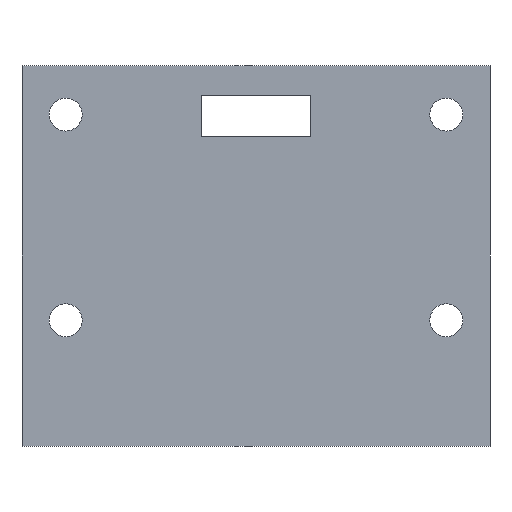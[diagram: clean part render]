
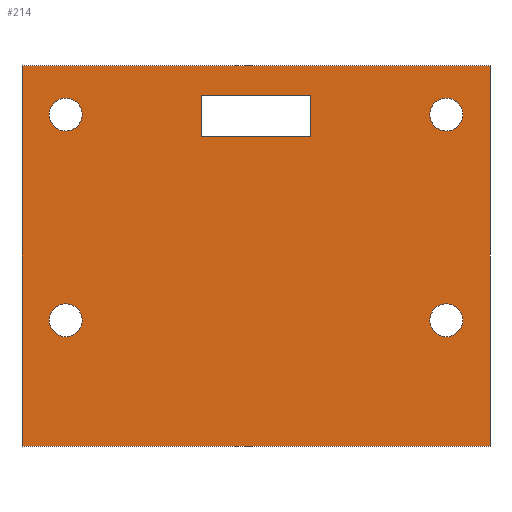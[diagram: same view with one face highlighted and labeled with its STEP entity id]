
A CAD part, front view. The second image highlights one B-rep face of the part: STEP entity #214.
In plain terms, the highlighted planar face has unit normal (0, -1, 0).
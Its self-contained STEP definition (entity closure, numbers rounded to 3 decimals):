
#24 = VERTEX_POINT('',#25);
#25 = CARTESIAN_POINT('',(0.,-4.,0.));
#31 = EDGE_CURVE('',#24,#32,#34,.T.);
#32 = VERTEX_POINT('',#33);
#33 = CARTESIAN_POINT('',(45.5,-4.,0.));
#34 = LINE('',#35,#36);
#35 = CARTESIAN_POINT('',(0.,-4.,0.));
#36 = VECTOR('',#37,1.);
#37 = DIRECTION('',(1.,0.,0.));
#64 = VERTEX_POINT('',#65);
#65 = CARTESIAN_POINT('',(0.,-4.,37.));
#71 = EDGE_CURVE('',#64,#24,#72,.T.);
#72 = LINE('',#73,#74);
#73 = CARTESIAN_POINT('',(0.,-4.,37.));
#74 = VECTOR('',#75,1.);
#75 = DIRECTION('',(0.,0.,-1.));
#93 = EDGE_CURVE('',#32,#94,#96,.T.);
#94 = VERTEX_POINT('',#95);
#95 = CARTESIAN_POINT('',(45.5,-4.,37.));
#96 = LINE('',#97,#98);
#97 = CARTESIAN_POINT('',(45.5,-4.,0.));
#98 = VECTOR('',#99,1.);
#99 = DIRECTION('',(0.,0.,1.));
#214 = ADVANCED_FACE('',(#215,#226,#237,#248,#259,#293),#304,.F.);
#215 = FACE_BOUND('',#216,.F.);
#216 = EDGE_LOOP('',(#217,#218,#219,#225));
#217 = ORIENTED_EDGE('',*,*,#31,.F.);
#218 = ORIENTED_EDGE('',*,*,#71,.F.);
#219 = ORIENTED_EDGE('',*,*,#220,.F.);
#220 = EDGE_CURVE('',#94,#64,#221,.T.);
#221 = LINE('',#222,#223);
#222 = CARTESIAN_POINT('',(45.5,-4.,37.));
#223 = VECTOR('',#224,1.);
#224 = DIRECTION('',(-1.,0.,0.));
#225 = ORIENTED_EDGE('',*,*,#93,.F.);
#226 = FACE_BOUND('',#227,.F.);
#227 = EDGE_LOOP('',(#228));
#228 = ORIENTED_EDGE('',*,*,#229,.T.);
#229 = EDGE_CURVE('',#230,#230,#232,.T.);
#230 = VERTEX_POINT('',#231);
#231 = CARTESIAN_POINT('',(5.85,-4.,12.25));
#232 = CIRCLE('',#233,1.6);
#233 = AXIS2_PLACEMENT_3D('',#234,#235,#236);
#234 = CARTESIAN_POINT('',(4.25,-4.,12.25));
#235 = DIRECTION('',(0.,-1.,0.));
#236 = DIRECTION('',(1.,0.,0.));
#237 = FACE_BOUND('',#238,.F.);
#238 = EDGE_LOOP('',(#239));
#239 = ORIENTED_EDGE('',*,*,#240,.T.);
#240 = EDGE_CURVE('',#241,#241,#243,.T.);
#241 = VERTEX_POINT('',#242);
#242 = CARTESIAN_POINT('',(5.85,-4.,32.25));
#243 = CIRCLE('',#244,1.6);
#244 = AXIS2_PLACEMENT_3D('',#245,#246,#247);
#245 = CARTESIAN_POINT('',(4.25,-4.,32.25));
#246 = DIRECTION('',(0.,-1.,0.));
#247 = DIRECTION('',(1.,0.,0.));
#248 = FACE_BOUND('',#249,.F.);
#249 = EDGE_LOOP('',(#250));
#250 = ORIENTED_EDGE('',*,*,#251,.T.);
#251 = EDGE_CURVE('',#252,#252,#254,.T.);
#252 = VERTEX_POINT('',#253);
#253 = CARTESIAN_POINT('',(42.85,-4.,12.25));
#254 = CIRCLE('',#255,1.6);
#255 = AXIS2_PLACEMENT_3D('',#256,#257,#258);
#256 = CARTESIAN_POINT('',(41.25,-4.,12.25));
#257 = DIRECTION('',(0.,-1.,0.));
#258 = DIRECTION('',(1.,0.,0.));
#259 = FACE_BOUND('',#260,.F.);
#260 = EDGE_LOOP('',(#261,#271,#279,#287));
#261 = ORIENTED_EDGE('',*,*,#262,.F.);
#262 = EDGE_CURVE('',#263,#265,#267,.T.);
#263 = VERTEX_POINT('',#264);
#264 = CARTESIAN_POINT('',(17.42,-4.,34.14));
#265 = VERTEX_POINT('',#266);
#266 = CARTESIAN_POINT('',(28.08,-4.,34.14));
#267 = LINE('',#268,#269);
#268 = CARTESIAN_POINT('',(17.42,-4.,34.14));
#269 = VECTOR('',#270,1.);
#270 = DIRECTION('',(1.,0.,0.));
#271 = ORIENTED_EDGE('',*,*,#272,.F.);
#272 = EDGE_CURVE('',#273,#263,#275,.T.);
#273 = VERTEX_POINT('',#274);
#274 = CARTESIAN_POINT('',(17.42,-4.,30.14));
#275 = LINE('',#276,#277);
#276 = CARTESIAN_POINT('',(17.42,-4.,30.14));
#277 = VECTOR('',#278,1.);
#278 = DIRECTION('',(0.,0.,1.));
#279 = ORIENTED_EDGE('',*,*,#280,.F.);
#280 = EDGE_CURVE('',#281,#273,#283,.T.);
#281 = VERTEX_POINT('',#282);
#282 = CARTESIAN_POINT('',(28.08,-4.,30.14));
#283 = LINE('',#284,#285);
#284 = CARTESIAN_POINT('',(28.08,-4.,30.14));
#285 = VECTOR('',#286,1.);
#286 = DIRECTION('',(-1.,0.,0.));
#287 = ORIENTED_EDGE('',*,*,#288,.F.);
#288 = EDGE_CURVE('',#265,#281,#289,.T.);
#289 = LINE('',#290,#291);
#290 = CARTESIAN_POINT('',(28.08,-4.,34.14));
#291 = VECTOR('',#292,1.);
#292 = DIRECTION('',(0.,0.,-1.));
#293 = FACE_BOUND('',#294,.F.);
#294 = EDGE_LOOP('',(#295));
#295 = ORIENTED_EDGE('',*,*,#296,.T.);
#296 = EDGE_CURVE('',#297,#297,#299,.T.);
#297 = VERTEX_POINT('',#298);
#298 = CARTESIAN_POINT('',(42.85,-4.,32.25));
#299 = CIRCLE('',#300,1.6);
#300 = AXIS2_PLACEMENT_3D('',#301,#302,#303);
#301 = CARTESIAN_POINT('',(41.25,-4.,32.25));
#302 = DIRECTION('',(0.,-1.,0.));
#303 = DIRECTION('',(1.,0.,0.));
#304 = PLANE('',#305);
#305 = AXIS2_PLACEMENT_3D('',#306,#307,#308);
#306 = CARTESIAN_POINT('',(22.75,-4.,18.5));
#307 = DIRECTION('',(0.,1.,0.));
#308 = DIRECTION('',(0.,0.,1.));
